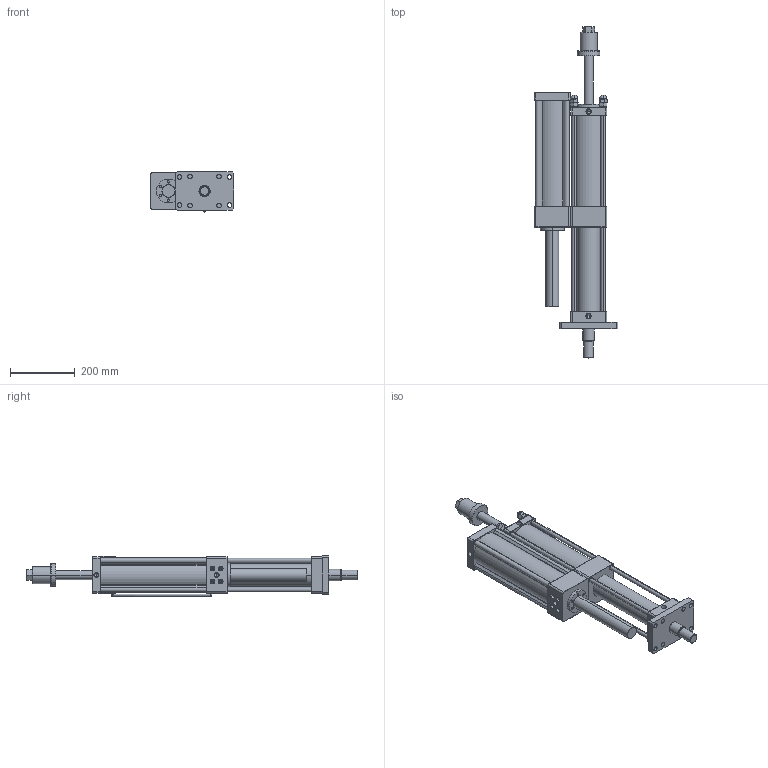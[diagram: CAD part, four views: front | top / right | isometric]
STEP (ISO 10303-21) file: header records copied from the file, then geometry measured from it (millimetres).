
FILE_DESCRIPTION (( 'STEP AP203' ), '1' );
FILE_NAME ('MPTD-80-150-15-8T.STEP', '2016-03-18T02:25:50', ( 'WIN' ), ( '' ), 'SwSTEP 2.0', 'SolidWorks 2014', '' );
FILE_SCHEMA (( 'CONFIG_CONTROL_DESIGN' ));
Length unit declared in the file: millimetre
Products named in the file (1): MPTD-80-150-15-8T
Bounding box: 258 x 1027 x 124 mm (x, y, z)
Volume: 5208966.7 mm3; surface area: 1075844.6 mm2
Topology: 5 solids, 13 shells, 568 faces, 1341 edges, 829 vertices
Faces by surface type: plane 305, cylinder 199, cone 56, torus 8
Entity records: 16170 total; most frequent: CARTESIAN_POINT 2989, DIRECTION 2843, ORIENTED_EDGE 2630, EDGE_CURVE 1315, AXIS2_PLACEMENT_3D 1051, VERTEX_POINT 829, LINE 741, VECTOR 741
